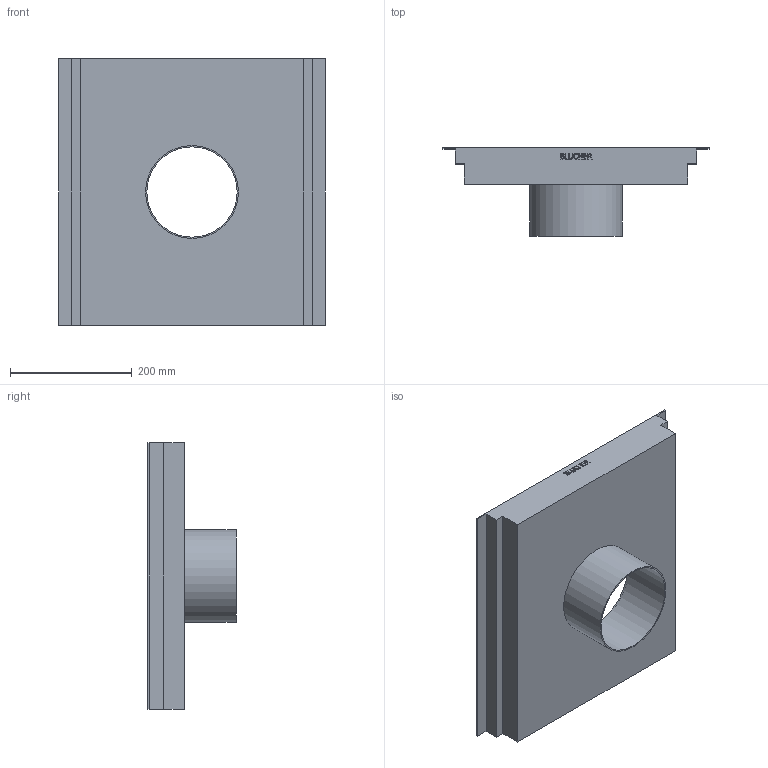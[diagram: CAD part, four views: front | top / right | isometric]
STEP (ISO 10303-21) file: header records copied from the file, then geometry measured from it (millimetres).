
FILE_DESCRIPTION((''),'2;1');
FILE_NAME('I:\WATTS\3D_CAD\3D_CAD_Models\Blucher_Drains\BKC_KitchenChannels\BKC-100\WebsiteFiles\3D\STEP\BKC-106-2.stp','2009-11-23T15:46:59',('menesek'),(''),'Autodesk Inventor 2010','Autodesk Inventor 2010','');
FILE_SCHEMA(('AUTOMOTIVE_DESIGN { 1 0 10303 214 1 1 1 1 }'));
Length unit declared in the file: inch
Products named in the file (1): BKC-106-2
Bounding box: 437 x 145 x 437 mm (x, y, z)
Volume: 616101.2 mm3; surface area: 620656.2 mm2
Topology: 1 solids, 1 shells, 142 faces, 384 edges, 256 vertices
Faces by surface type: plane 95, bspline 45, cylinder 2
Full cylindrical faces by diameter (mm): 148.4 x1, 152.4 x1
Entity records: 4799 total; most frequent: CARTESIAN_POINT 1501, ORIENTED_EDGE 764, DIRECTION 492, EDGE_CURVE 382, VECTOR 288, LINE 288, VERTEX_POINT 256, EDGE_LOOP 158
